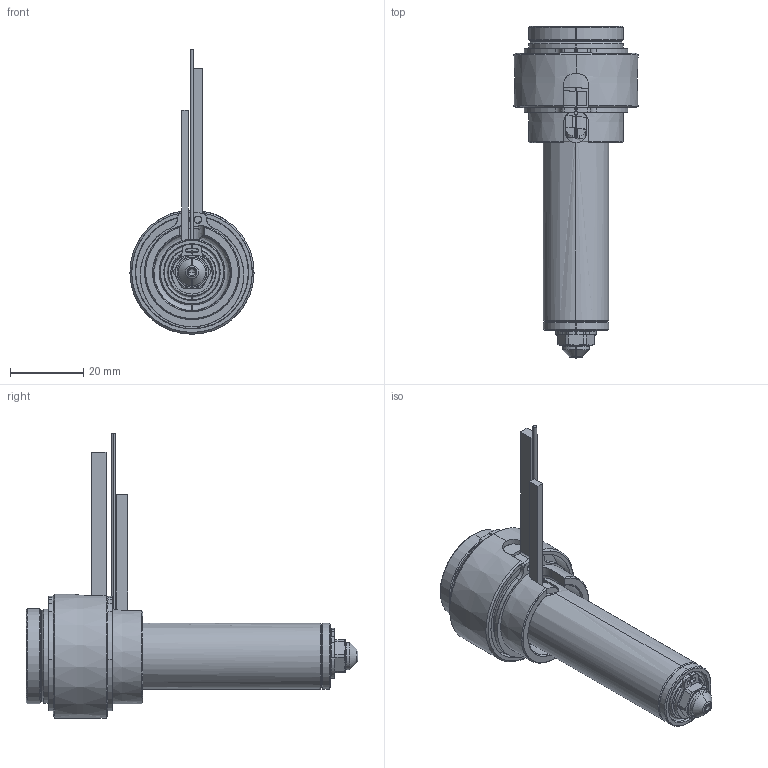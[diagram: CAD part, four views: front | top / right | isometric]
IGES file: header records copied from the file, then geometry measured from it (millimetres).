
Start section: SolidWorks IGES file using analytic representation for surfaces
Global section: file name: C:\Documents and Settings\ws-20\Desktop\TEM\UGER2502-S-A-1 [Øb-1.90 ØC-5.0].IGS; native system: SolidWorks 2012; preprocessor: SolidWorks 2012; author: ws-20; date: 120405.105146; units: millimetre
Bounding box: 34 x 90.9 x 77.9 mm (x, y, z)
Surface area: 22334.6 mm2 (no closed solid volume)
Topology: 0 solids, 0 shells, 207 faces, 2687 edges, 2685 vertices
Faces by surface type: revolution 134, bspline 73
